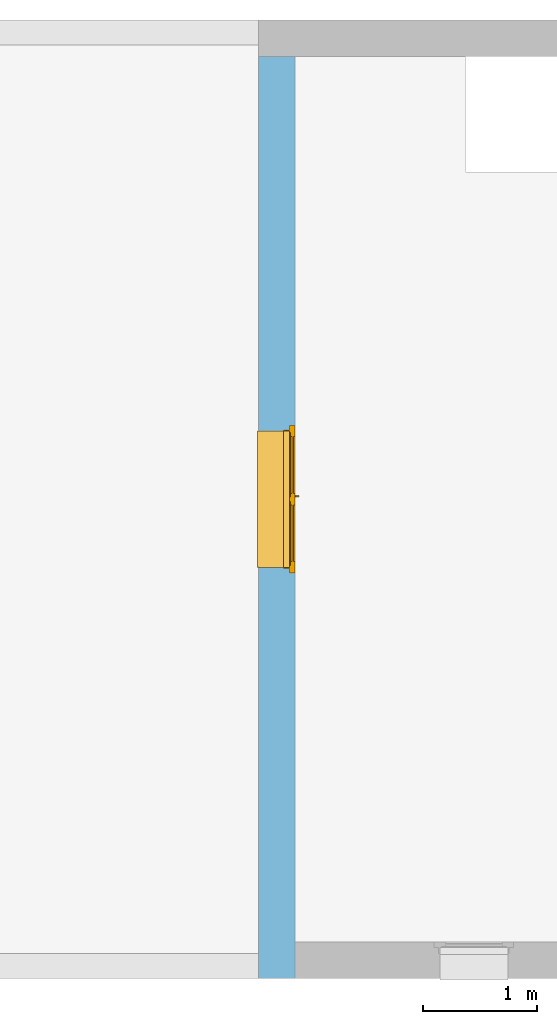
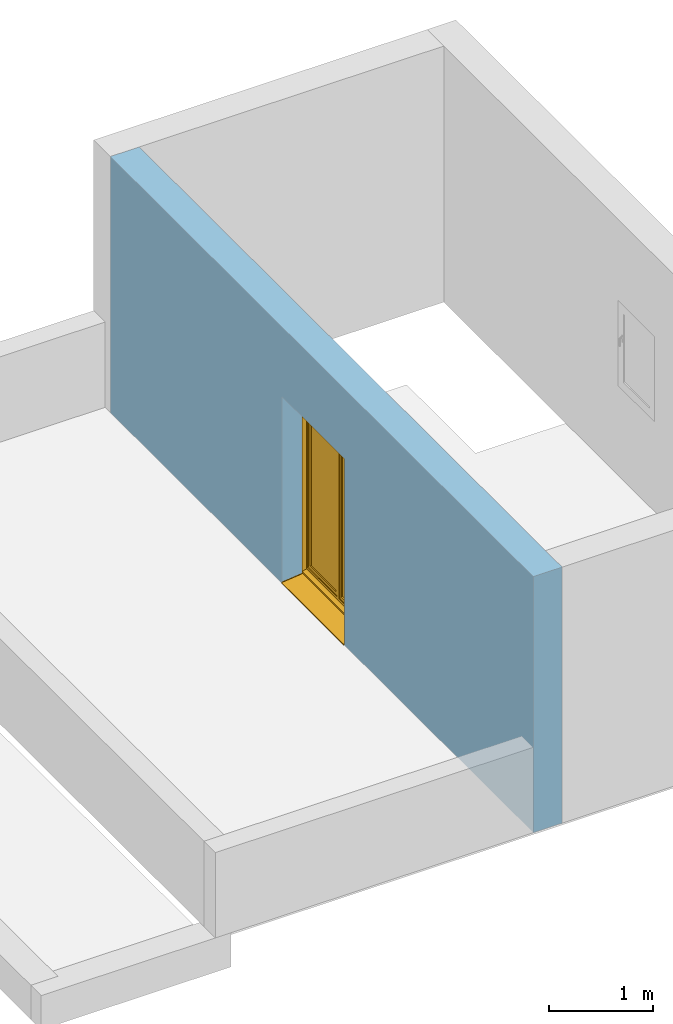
# One storey, part 3 of 3: 1 window, 1 opening, plus 1 element that does not belong to this part.
"""IFC2X3 building model written with IfcOpenShell, lengths in metres."""

from ifc_helpers import new_model, entity, si_unit, converted_unit, derived_unit, direction, frame, frame_2d, origin, place, context, subcontext, project, spatial, rectangle, extrude, faceted_brep, source, transform, mapped, material, material_list, layer, layer_set, layer_usage, type_object, type_shapes, element, fill, save


model = new_model("IFC2X3")

# Units and contexts
model_context = context("Model", 3, precision=1e-05, world=origin(), true_north=direction((6.12303176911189e-17, 1.0)))
context_of_model = context(None, 3, precision=1e-05, world=origin(), true_north=direction((6.12303176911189e-17, 1.0)))
body_context = subcontext(model_context, "Body", "Model", "MODEL_VIEW")
ifc_project = project(units=[si_unit("LENGTHUNIT", "METRE"), si_unit("AREAUNIT", "SQUARE_METRE"), si_unit("VOLUMEUNIT", "CUBIC_METRE"), converted_unit("PLANEANGLEUNIT", "DEGREE", entity("IfcRatioMeasure", 0.0174532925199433), si_unit("PLANEANGLEUNIT", "RADIAN"), dimensions=[0, 0, 0, 0, 0, 0, 0]), si_unit("MASSUNIT", "GRAM", prefix="KILO"), si_unit("TIMEUNIT", "SECOND"), si_unit("FREQUENCYUNIT", "HERTZ"), si_unit("THERMODYNAMICTEMPERATUREUNIT", "DEGREE_CELSIUS"), derived_unit("THERMALTRANSMITTANCEUNIT", [(si_unit("MASSUNIT", "GRAM", prefix="KILO"), 1), (si_unit("THERMODYNAMICTEMPERATUREUNIT", "KELVIN"), -1), (si_unit("TIMEUNIT", "SECOND"), -3)]), derived_unit("VOLUMETRICFLOWRATEUNIT", [(si_unit("LENGTHUNIT", "METRE"), 3), (si_unit("TIMEUNIT", "SECOND"), -1)]), si_unit("ELECTRICCURRENTUNIT", "AMPERE"), si_unit("ELECTRICVOLTAGEUNIT", "VOLT"), si_unit("POWERUNIT", "WATT"), si_unit("FORCEUNIT", "NEWTON", prefix="KILO"), si_unit("ILLUMINANCEUNIT", "LUX"), si_unit("LUMINOUSFLUXUNIT", "LUMEN"), si_unit("LUMINOUSINTENSITYUNIT", "CANDELA"), si_unit("PRESSUREUNIT", "PASCAL")], contexts=[model_context, context_of_model])

# Site, building, storey
site_placement = place(None, origin())
site = spatial("IfcSite", under=ifc_project, at=site_placement, Name="Default", CompositionType="ELEMENT")
building_placement = place(site_placement, origin())
building = spatial("IfcBuilding", under=site, at=building_placement, CompositionType="ELEMENT")
storey_placement = place(building_placement, frame((0.0, 0.0, 3.0)))
storey = spatial("IfcBuildingStorey", under=building, at=storey_placement, Name="Niveau 1", CompositionType="ELEMENT", Elevation=2.99999999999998)

# Wall, opening, window
ifc_material_1 = material(Name="Maçonnerie - Enduit")
ifc_layer_1 = layer(ifc_material_1, 0.02)
ifc_material_2 = material(Name="Blocs béton manufacturés")
ifc_layer_2 = layer(ifc_material_2, 0.2)
ifc_material_3 = material(Name="Maçonnerie - Isolant")
ifc_layer_3 = layer(ifc_material_3, 0.1)
ifc_layer_set = layer_set([ifc_layer_1, ifc_layer_2, ifc_layer_3], Name="Mur de base:Ext. Parpaing 20 + Isolant 10")
ifc_layer_usage = layer_usage(ifc_layer_set, "AXIS2", "NEGATIVE", 0.16)
wall_type = type_object("IfcWallType", Name="Mur de base:Ext. Parpaing 20 + Isolant 10", PredefinedType="NOTDEFINED")
wall_placement = place(storey_placement, frame((-5.77815113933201, -3.22461312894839, 0.0), z_axis=(0.0, 0.0, 1.0), x_axis=(0.0, 1.0, 0.0)))
wall = element("IfcWallStandardCase", 1, at=wall_placement, inside=storey, type_object=wall_type, material=ifc_layer_usage, Name="Mur de base:Ext. Parpaing 20 + Isolant 10", ObjectType="Mur de base:Ext. Parpaing 20 + Isolant 10", context=body_context, shape_type="SweptSolid", body=[
    extrude(rectangle(XDim=8.12, YDim=0.320000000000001, at=frame_2d((4.06, 0.0), x_axis=(-1.0, 0.0))), origin(), (0.0, 0.0, 1.0), 3.0),
])
opening_placement = place(wall_placement, frame((3.57, 0.500000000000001, 0.0), z_axis=(0.0, 0.0, 1.0), x_axis=(0.0, -1.0, 0.0)))
opening = element("IfcOpeningElement", 2, at=opening_placement, cuts=wall, Name="Mur de base:Ext. Parpaing 20 + Isolant 10", ObjectType="Opening", context=body_context, shape_type="Brep", body=[
    faceted_brep([(0.579999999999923, 0.0499999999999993, 0.0350000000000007), (0.559999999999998, 0.0499999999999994, 0.0350000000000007), (0.559999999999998, 0.0499999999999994, 2.185), (0.0, 0.0500000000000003, 2.185), (0.0, 0.0500000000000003, 0.0), (0.246997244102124, 0.0499999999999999, 0.0), (1.0, 1.25, 0.0350000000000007), (0.660000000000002, 1.25, 0.0350000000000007), (0.660000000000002, 1.25, 2.185), (1.0, 1.25, 2.185), (1.0, 0.0499999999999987, 0.0350000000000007), (0.660000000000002, 0.0499999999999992, 0.0350000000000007), (0.660000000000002, 0.0, 0.0350000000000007), (0.610000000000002, 0.0, 0.0350000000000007), (0.610000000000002, 0.0399999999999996, 0.0350000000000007), (0.559999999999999, 0.0399999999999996, 0.0350000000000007), (0.579999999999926, 1.25, 0.0350000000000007), (0.559999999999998, 1.25, 0.0350000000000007), (0.559999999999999, 1.26, 0.0350000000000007), (0.610000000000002, 1.26, 0.0350000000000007), (0.610000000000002, 1.3, 0.0350000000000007), (0.660000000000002, 1.3, 0.0350000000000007), (1.0, 0.0499999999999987, 2.185), (0.559999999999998, 1.25, 2.185), (0.0, 1.25, 2.185), (0.0, 1.25, 0.0), (0.246997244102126, 1.25, 0.0), (0.660000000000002, 0.0, 2.235), (0.610000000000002, 0.0, 2.235), (0.610000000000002, 1.3, 2.235), (0.610000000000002, 1.26, 2.195), (0.610000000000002, 0.0399999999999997, 2.195), (0.559999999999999, 0.0399999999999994, 2.195), (0.559999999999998, 1.26, 2.195), (0.660000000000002, 0.0499999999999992, 2.185), (0.660000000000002, 1.3, 2.235)], [[[0, 1, 2, 3, 4, 5]], [[6, 7, 8, 9]], [[10, 11, 12, 13, 14, 15, 1, 0, 16, 17, 18, 19, 20, 21, 7, 6]], [[10, 6, 9, 22]], [[3, 2, 23, 24]], [[3, 24, 25, 4]], [[4, 25, 26, 5]], [[5, 26, 16, 0]], [[12, 27, 28, 13]], [[13, 28, 29, 20, 19, 30, 31, 14]], [[14, 31, 32, 15]], [[15, 32, 33, 18, 17, 23, 2, 1]], [[11, 34, 8, 7, 21, 35, 27, 12]], [[27, 35, 29, 28]], [[30, 33, 32, 31]], [[29, 35, 21, 20]], [[19, 18, 33, 30]], [[9, 8, 34, 22]], [[24, 23, 17, 16, 26, 25]], [[22, 34, 11, 10]]]),
])
ifc_material_4 = material(Name="Fenêtre - Poignée")
ifc_material_5 = material(Name="Fenêtre - Appui")
ifc_material_6 = material(Name="Fenêtre - Cadre")
ifc_material_7 = material(Name="Fenêtre - Vitrage")
ifc_material_list_1 = material_list([ifc_material_4, ifc_material_5, ifc_material_6, ifc_material_7])
ifc_material_list_2 = material_list([ifc_material_4, ifc_material_5, ifc_material_6, ifc_material_7])
window_style = type_object("IfcWindowStyle", Name="1.20m x 2.15m", ConstructionType="NOTDEFINED", OperationType="DOUBLE_PANEL_VERTICAL", ParameterTakesPrecedence=False, Sizeable=False, material=ifc_material_list_2)
shared_shape = source(origin(), body_context, "Body", "Brep", [
    faceted_brep([(0.680646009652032, -0.66600000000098, 1.12203392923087), (0.682033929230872, -0.66600000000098, 1.12064600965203), (0.682033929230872, -0.66600000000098, 1.10933230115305), (0.680667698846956, -0.66600000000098, 1.10796607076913), (0.669332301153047, -0.66600000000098, 1.10796607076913), (0.667966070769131, -0.66600000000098, 1.10933230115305), (0.667966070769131, -0.66600000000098, 1.12064600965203), (0.669353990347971, -0.66600000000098, 1.12203392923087), (0.680646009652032, -0.678913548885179, 1.12203392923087), (0.682033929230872, -0.67833865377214, 1.12064600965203), (0.682033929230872, -0.69164600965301, 1.10733865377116), (0.682033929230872, -0.69164600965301, 1.02), (0.682033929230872, -0.680332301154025, 1.02), (0.682033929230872, -0.680332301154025, 1.10265236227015), (0.682033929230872, -0.673652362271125, 1.10933230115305), (0.680667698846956, -0.673086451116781, 1.10796607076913), (0.669332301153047, -0.673086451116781, 1.10796607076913), (0.667966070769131, -0.673652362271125, 1.10933230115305), (0.667966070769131, -0.680332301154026, 1.10265236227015), (0.667966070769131, -0.680332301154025, 1.02), (0.667966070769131, -0.69164600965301, 1.02), (0.667966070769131, -0.69164600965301, 1.10733865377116), (0.667966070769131, -0.67833865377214, 1.12064600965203), (0.669353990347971, -0.678913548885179, 1.12203392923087), (0.680646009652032, -0.69303392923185, 1.1079135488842), (0.680667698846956, -0.67896607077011, 1.1020864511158), (0.669332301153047, -0.67896607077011, 1.1020864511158), (0.669353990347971, -0.69303392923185, 1.1079135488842), (0.680646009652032, -0.69303392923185, 1.02), (0.669353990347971, -0.69303392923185, 1.02), (0.669332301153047, -0.678966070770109, 1.02), (0.680667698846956, -0.67896607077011, 1.02)], [[[0, 1, 2, 3, 4, 5, 6, 7]], [[1, 0, 8, 9]], [[2, 1, 9, 10, 11, 12, 13, 14]], [[3, 2, 14, 15]], [[4, 3, 15, 16]], [[5, 4, 16, 17]], [[6, 5, 17, 18, 19, 20, 21, 22]], [[7, 6, 22, 23]], [[0, 7, 23, 8]], [[9, 8, 24, 10]], [[15, 14, 13, 25]], [[16, 15, 25, 26]], [[17, 16, 26, 18]], [[23, 22, 21, 27]], [[8, 23, 27, 24]], [[28, 29, 20, 19, 30, 31, 12, 11]], [[10, 24, 28, 11]], [[25, 13, 12, 31]], [[26, 25, 31, 30]], [[18, 26, 30, 19]], [[27, 21, 20, 29]], [[24, 27, 29, 28]]]),
    faceted_brep([(0.682000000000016, -0.666000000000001, 1.14), (0.668, -0.666000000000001, 1.14), (0.663, -0.666000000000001, 1.135), (0.663, -0.666000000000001, 1.06499999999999), (0.667999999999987, -0.666000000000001, 1.06), (0.682000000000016, -0.666000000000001, 1.06), (0.687000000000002, -0.666000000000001, 1.06499999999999), (0.687000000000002, -0.666000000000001, 1.135), (0.682000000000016, -0.660000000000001, 1.14), (0.687000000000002, -0.660000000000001, 1.135), (0.687000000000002, -0.660000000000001, 1.06499999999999), (0.682000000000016, -0.660000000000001, 1.06), (0.667999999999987, -0.660000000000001, 1.06), (0.663, -0.660000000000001, 1.06499999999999), (0.663, -0.660000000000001, 1.135), (0.668, -0.660000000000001, 1.14)], [[[0, 1, 2, 3, 4, 5, 6, 7]], [[8, 9, 10, 11, 12, 13, 14, 15]], [[1, 0, 8, 15]], [[2, 1, 15, 14]], [[3, 2, 14, 13]], [[4, 3, 13, 12]], [[5, 4, 12, 11]], [[6, 5, 11, 10]], [[7, 6, 10, 9]], [[0, 7, 9, 8]]]),
    faceted_brep([(1.25, -0.329971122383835, 0.0139761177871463), (1.25, -0.574999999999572, 0.0397296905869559), (1.25, -0.574999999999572, 0.0499999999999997), (1.25, -0.579999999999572, 0.0499999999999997), (1.25, -0.579999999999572, 0.0349999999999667), (1.25, -0.334971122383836, 0.00924642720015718), (1.25, -0.334971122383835, 0.00342343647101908), (1.25, -0.329971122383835, 0.00289791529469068), (0.0499999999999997, -0.329971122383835, 0.0139761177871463), (0.0499999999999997, -0.329971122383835, 0.00289791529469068), (0.0499999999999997, -0.334971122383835, 0.00342343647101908), (0.0499999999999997, -0.334971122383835, 0.00924642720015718), (0.0499999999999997, -0.579999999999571, 0.0349999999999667), (0.0499999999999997, -0.579999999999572, 0.0499999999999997), (0.0499999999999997, -0.574999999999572, 0.0499999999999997), (0.0499999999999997, -0.574999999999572, 0.0397296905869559)], [[[0, 1, 2, 3, 4, 5, 6, 7]], [[8, 9, 10, 11, 12, 13, 14, 15]], [[1, 0, 8, 15]], [[2, 1, 15, 14]], [[3, 2, 14, 13]], [[4, 3, 13, 12]], [[5, 4, 12, 11]], [[6, 5, 11, 10]], [[7, 6, 10, 9]], [[0, 7, 9, 8]]]),
    faceted_brep([(0.0500000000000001, -0.329971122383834, 0.0154020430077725), (0.0500000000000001, -0.329971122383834, 0.0139761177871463), (0.0499999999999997, -0.574999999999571, 0.0397296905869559), (0.0499999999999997, -0.574999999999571, 0.0447572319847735), (0.0500000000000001, -0.333553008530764, 0.0193801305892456), (0.0500000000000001, -0.330998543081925, 0.0180785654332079), (0.0549999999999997, -0.574999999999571, 0.0447572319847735), (0.0549999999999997, -0.574999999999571, 0.0397296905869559), (0.0550000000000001, -0.329971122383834, 0.0139761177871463), (0.0550000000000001, -0.329971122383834, 0.0154020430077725), (0.0550000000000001, -0.330998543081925, 0.0180785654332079), (0.0550000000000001, -0.333553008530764, 0.0193801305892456)], [[[0, 1, 2, 3, 4, 5]], [[6, 7, 8, 9, 10, 11]], [[2, 1, 8, 7]], [[3, 2, 7, 6]], [[4, 3, 6, 11]], [[4, 11, 10, 5]], [[10, 9, 0, 5]], [[1, 0, 9, 8]]]),
    faceted_brep([(1.245, -0.329971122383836, 0.0154020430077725), (1.245, -0.329971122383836, 0.0139761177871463), (1.245, -0.574999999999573, 0.0397296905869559), (1.245, -0.574999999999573, 0.0447572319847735), (1.245, -0.333553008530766, 0.0193801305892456), (1.245, -0.330998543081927, 0.0180785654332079), (1.25, -0.574999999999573, 0.0447572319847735), (1.25, -0.574999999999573, 0.0397296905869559), (1.25, -0.329971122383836, 0.0139761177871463), (1.25, -0.329971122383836, 0.0154020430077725), (1.25, -0.330998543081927, 0.0180785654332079), (1.25, -0.333553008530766, 0.0193801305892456)], [[[0, 1, 2, 3, 4, 5]], [[6, 7, 8, 9, 10, 11]], [[2, 1, 8, 7]], [[3, 2, 7, 6]], [[4, 3, 6, 11]], [[4, 11, 10, 5]], [[10, 9, 0, 5]], [[1, 0, 9, 8]]]),
    faceted_brep([(0.649999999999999, -0.619999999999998, 2.185), (0.649999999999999, -0.65999999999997, 2.185), (0.649999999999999, -0.65999999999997, 0.0849999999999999), (0.649999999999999, -0.619999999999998, 0.0849999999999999), (0.0499999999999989, -0.659999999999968, 0.085), (0.0499999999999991, -0.619999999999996, 0.085), (0.0499999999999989, -0.659999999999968, 2.185), (0.0999999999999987, -0.659999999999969, 0.135), (0.0999999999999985, -0.659999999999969, 2.135), (0.6, -0.65999999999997, 2.135), (0.6, -0.65999999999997, 0.135), (0.0499999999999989, -0.619999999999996, 2.185), (0.6, -0.619999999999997, 0.135), (0.6, -0.619999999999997, 2.135), (0.099999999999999, -0.619999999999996, 2.135), (0.0999999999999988, -0.619999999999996, 0.135)], [[[0, 1, 2, 3]], [[3, 2, 4, 5]], [[2, 1, 6, 4], [7, 8, 9, 10]], [[5, 4, 6, 11]], [[5, 11, 0, 3], [12, 13, 14, 15]], [[9, 13, 12, 10]], [[10, 12, 15, 7]], [[7, 15, 14, 8]], [[11, 6, 1, 0]], [[8, 14, 13, 9]]]),
    faceted_brep([(0.7, -0.634000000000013, 0.135000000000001), (0.7, -0.634000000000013, 2.135), (1.2, -0.634000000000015, 2.135), (1.2, -0.634000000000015, 0.135000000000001), (0.7, -0.646000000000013, 0.135000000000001), (0.7, -0.646000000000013, 2.135), (1.2, -0.646000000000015, 2.135), (1.2, -0.646000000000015, 0.135000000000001)], [[[0, 1, 2, 3]], [[1, 0, 4, 5]], [[3, 2, 6, 7]], [[0, 3, 7, 4]], [[2, 1, 5, 6]], [[4, 7, 6, 5]]]),
    faceted_brep([(0.6, -0.634000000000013, 0.135), (0.6, -0.634000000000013, 2.135), (0.6, -0.646000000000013, 2.135), (0.6, -0.646000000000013, 0.135), (0.0999999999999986, -0.634000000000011, 0.135), (0.0999999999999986, -0.646000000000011, 0.135), (0.0999999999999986, -0.634000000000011, 2.135), (0.0999999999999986, -0.646000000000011, 2.135)], [[[0, 1, 2, 3]], [[4, 0, 3, 5]], [[6, 4, 5, 7]], [[7, 5, 3, 2]], [[1, 6, 7, 2]], [[6, 1, 0, 4]]]),
    faceted_brep([(0.7, -0.620000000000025, 2.135), (0.699999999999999, -0.660000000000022, 2.135), (0.699999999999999, -0.660000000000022, 0.135), (0.7, -0.620000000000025, 0.135), (1.2, -0.660000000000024, 0.135), (1.2, -0.620000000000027, 0.135), (1.2, -0.660000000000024, 2.135), (1.25, -0.660000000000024, 0.085000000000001), (1.25, -0.660000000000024, 2.185), (0.65, -0.660000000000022, 2.185), (0.649999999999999, -0.660000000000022, 0.0850000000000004), (1.2, -0.620000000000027, 2.135), (0.65, -0.620000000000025, 0.085000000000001), (0.65, -0.620000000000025, 2.185), (1.25, -0.620000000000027, 2.185), (1.25, -0.620000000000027, 0.085000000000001)], [[[0, 1, 2, 3]], [[3, 2, 4, 5]], [[2, 1, 6, 4], [7, 8, 9, 10]], [[5, 4, 6, 11]], [[5, 11, 0, 3], [12, 13, 14, 15]], [[9, 13, 12, 10]], [[10, 12, 15, 7]], [[7, 15, 14, 8]], [[11, 6, 1, 0]], [[8, 14, 13, 9]]], outer=[[True], [True], [False, True], [True], [False, True], [True], [True], [True], [True], [True]]),
    faceted_brep([(0.0, -0.660000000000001, 0.0350000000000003), (0.0, -0.610000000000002, 0.0350000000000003), (0.0499999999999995, -0.610000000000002, 0.0350000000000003), (0.0499999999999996, -0.580000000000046, 0.0350000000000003), (1.25, -0.580000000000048, 0.0350000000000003), (1.25, -0.610000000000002, 0.0350000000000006), (1.3, -0.610000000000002, 0.0350000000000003), (1.3, -0.660000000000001, 0.0350000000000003), (0.0, -0.660000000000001, 2.235), (0.0, -0.610000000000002, 2.235), (1.3, -0.610000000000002, 2.235), (1.25, -0.610000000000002, 0.074376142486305), (0.0499999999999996, -0.610000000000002, 0.0743761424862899), (0.0649999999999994, -0.610000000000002, 2.17), (0.0649999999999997, -0.610000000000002, 0.0999999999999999), (1.235, -0.610000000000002, 0.0999999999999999), (1.235, -0.610000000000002, 2.17), (0.0499999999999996, -0.560000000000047, 0.060978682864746), (0.0499999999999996, -0.560000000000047, 0.0450000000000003), (0.0499999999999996, -0.570000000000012, 0.0450000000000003), (0.0499999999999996, -0.570000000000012, 0.050000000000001), (0.0499999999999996, -0.580000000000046, 0.050000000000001), (1.25, -0.580000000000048, 0.050000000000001), (1.25, -0.570000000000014, 0.050000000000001), (1.25, -0.570000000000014, 0.0450000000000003), (1.25, -0.560000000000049, 0.0450000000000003), (1.25, -0.560000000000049, 0.060978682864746), (1.3, -0.660000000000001, 2.235), (1.25, -0.660000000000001, 2.185), (1.25, -0.660000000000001, 0.0850000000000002), (0.0499999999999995, -0.66, 0.0850000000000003), (0.0499999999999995, -0.660000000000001, 2.185), (0.0649999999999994, -0.620000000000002, 2.17), (0.0649999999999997, -0.620000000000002, 0.0999999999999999), (1.235, -0.620000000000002, 0.0999999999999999), (1.235, -0.620000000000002, 2.17), (1.25, -0.620000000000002, 2.185), (0.0499999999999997, -0.620000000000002, 2.185), (0.0499999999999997, -0.620000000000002, 0.0850000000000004), (1.25, -0.620000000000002, 0.0850000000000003)], [[[0, 1, 2, 3, 4, 5, 6, 7]], [[1, 0, 8, 9]], [[1, 9, 10, 6, 5, 11, 12, 2], [13, 14, 15, 16]], [[12, 17, 18, 19, 20, 21, 3, 2]], [[3, 21, 22, 4]], [[4, 22, 23, 24, 25, 26, 11, 5]], [[6, 10, 27, 7]], [[0, 7, 27, 8], [28, 29, 30, 31]], [[13, 32, 33, 14]], [[33, 34, 15, 14]], [[35, 16, 15, 34]], [[17, 12, 11, 26]], [[36, 37, 38, 39], [32, 35, 34, 33]], [[38, 37, 31, 30]], [[30, 29, 39, 38]], [[28, 36, 39, 29]], [[18, 17, 26, 25]], [[19, 18, 25, 24]], [[20, 19, 24, 23]], [[21, 20, 23, 22]], [[13, 16, 35, 32]], [[37, 36, 28, 31]], [[10, 9, 8, 27]]]),
    faceted_brep([(0.0499999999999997, -0.56, 0.0350000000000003), (0.0499999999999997, -0.610000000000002, 0.0350000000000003), (0.0399999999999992, -0.610000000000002, 0.0350000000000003), (0.0399999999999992, -0.56, 0.0350000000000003), (0.0499999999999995, -0.56, 2.185), (0.0499999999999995, -0.610000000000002, 2.185), (1.25, -0.610000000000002, 2.185), (1.25, -0.610000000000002, 0.0350000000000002), (1.26, -0.610000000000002, 0.0350000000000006), (1.26, -0.610000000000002, 2.195), (0.0399999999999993, -0.610000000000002, 2.195), (0.039999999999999, -0.56, 2.195), (1.26, -0.56, 2.195), (1.26, -0.56, 0.0350000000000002), (1.25, -0.56, 0.0350000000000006), (1.25, -0.56, 2.185)], [[[0, 1, 2, 3]], [[1, 0, 4, 5]], [[2, 1, 5, 6, 7, 8, 9, 10]], [[3, 2, 10, 11]], [[0, 3, 11, 12, 13, 14, 15, 4]], [[6, 15, 14, 7]], [[14, 13, 8, 7]], [[12, 9, 8, 13]], [[5, 4, 15, 6]], [[11, 10, 9, 12]]]),
    faceted_brep([(0.67, -0.612000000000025, 2.17), (0.63, -0.612000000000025, 2.17), (0.63, -0.620000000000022, 2.17), (0.67, -0.620000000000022, 2.17), (0.67, -0.612000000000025, 0.0999999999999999), (0.67, -0.620000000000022, 0.0999999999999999), (0.63, -0.620000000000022, 0.0999999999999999), (0.63, -0.612000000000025, 0.0999999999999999)], [[[0, 1, 2, 3]], [[4, 5, 6, 7]], [[1, 0, 4, 7]], [[2, 1, 7, 6]], [[3, 2, 6, 5]], [[0, 3, 5, 4]]]),
])
type_shapes(window_style, [shared_shape])
window_placement = place(opening_placement, frame((0.0, 0.0, 0.0), z_axis=(0.0, 0.0, 1.0), x_axis=(0.0, 1.0, 0.0)))
window = element("IfcWindow", 3, at=window_placement, inside=storey, type_object=window_style, material=ifc_material_list_1, Name="PF 2 Vantaux - Droits:1.20m x 2.15m", ObjectType="1.20m x 2.15m", OverallHeight=2.265, OverallWidth=1.3, context=body_context, shape_type="MappedRepresentation", body=[
    mapped(shared_shape, transform((0.0, 0.0, 0.0), scale=1.0)),
])
fill(opening, window)

save(model, "model.ifc")
